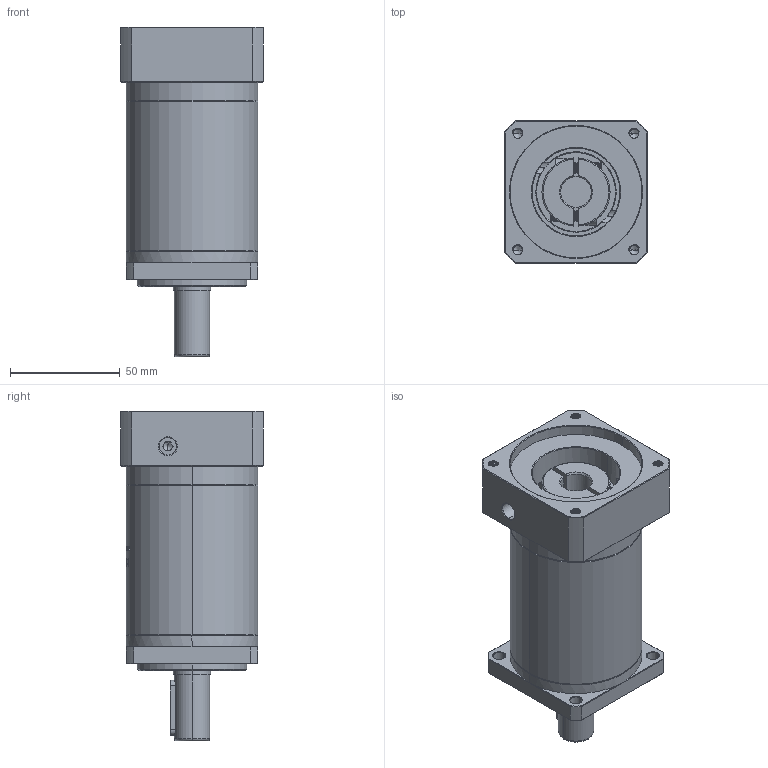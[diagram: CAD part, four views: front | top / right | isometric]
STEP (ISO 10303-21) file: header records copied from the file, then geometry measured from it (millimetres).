
FILE_DESCRIPTION (( 'STEP AP214' ), '1' );
FILE_NAME ('ZF60-D16-L3-14-60-75-M5.STEP', '2022-04-17T11:54:09', ( '' ), ( 'Microsoft' ), 'SwSTEP 2.0', 'SolidWorks 2016', '' );
FILE_SCHEMA (( 'AUTOMOTIVE_DESIGN' ));
Length unit declared in the file: millimetre
Products named in the file (1): ZF60-D16-L3-14-60-75-M5
Bounding box: 65 x 65 x 150 mm (x, y, z)
Volume: 334010.8 mm3; surface area: 53325.3 mm2
Topology: 6 solids, 6 shells, 1661 faces, 4486 edges, 2902 vertices
Faces by surface type: plane 749, cylinder 359, bspline 299, cone 236, torus 18
Entity records: 94533 total; most frequent: CARTESIAN_POINT 38329, ORIENTED_EDGE 8944, DIRECTION 6568, EDGE_CURVE 4472, VERTEX_POINT 2902, VECTOR 2282, LINE 2282, AXIS2_PLACEMENT_3D 2143
